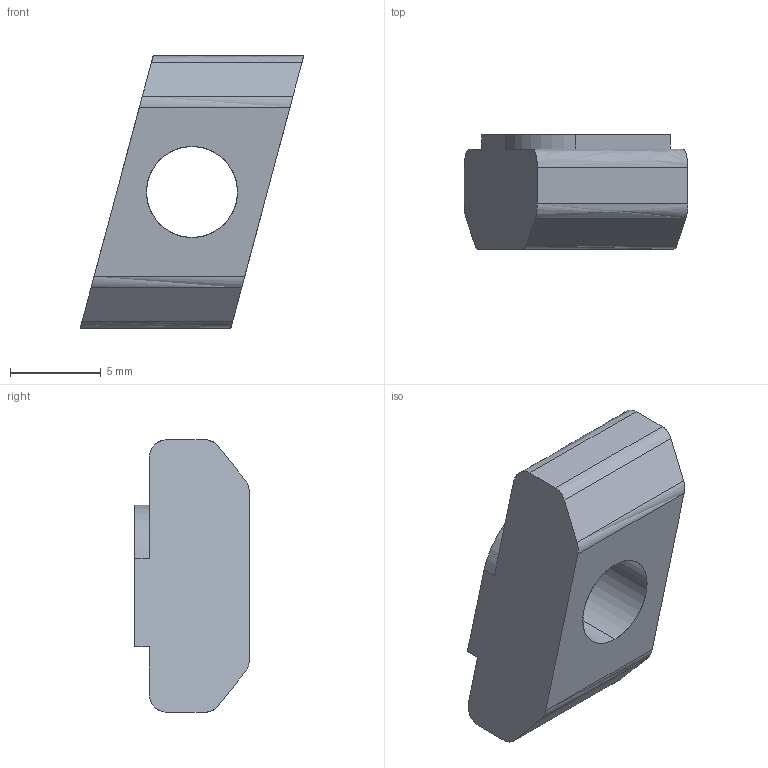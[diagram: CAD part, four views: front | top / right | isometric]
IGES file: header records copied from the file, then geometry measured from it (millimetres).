
Start section: SolidWorks IGES file using analytic representation for surfaces
Global section: file name: C:\Documents and Settings\Administrator\デスクトップ\指定保存後3回目\SolidWorks\SF\SF30\Nut\SFB-S64.IGS; native system: SolidWorks 2006 by SolidWorks Corporation; preprocessor: SolidWorks 2006 by SolidWorks Corporation; author: Administrator; date: 061213.102942; units: millimetre
Bounding box: 12.3 x 6.3 x 15 mm (x, y, z)
Surface area: 553.2 mm2 (no closed solid volume)
Topology: 0 solids, 0 shells, 22 faces, 332 edges, 392 vertices
Faces by surface type: bspline 12, revolution 10
